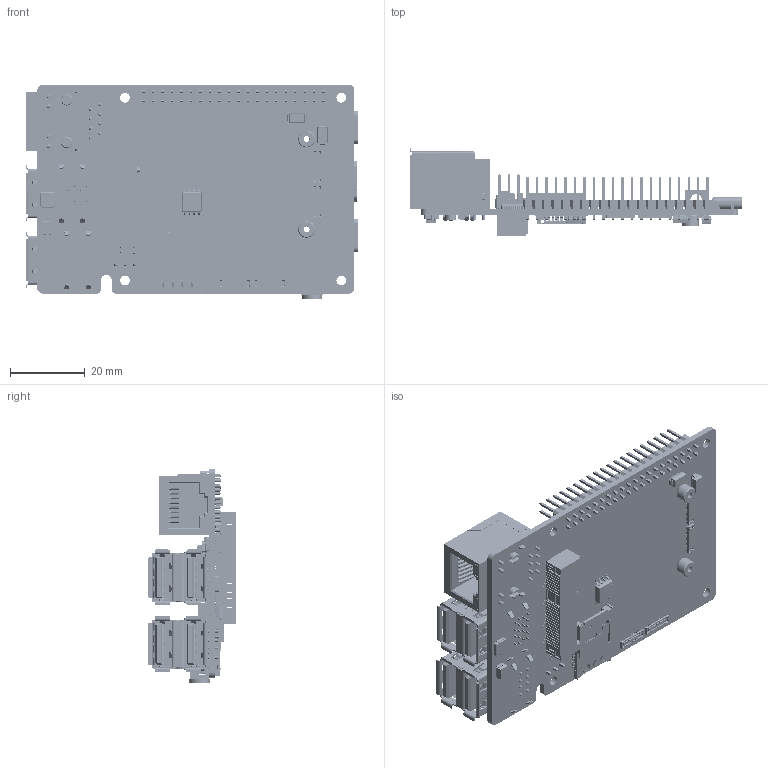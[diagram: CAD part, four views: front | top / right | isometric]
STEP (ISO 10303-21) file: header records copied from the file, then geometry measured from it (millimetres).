
FILE_DESCRIPTION (( 'STEP AP214' ), '1' );
FILE_NAME ('LubanCat 3-PCB 3D恅璃.STEP', '2025-04-15T01:10:36', ( '' ), ( '' ), 'SwSTEP 2.0', 'SolidWorks 2023', '' );
FILE_SCHEMA (( 'AUTOMOTIVE_DESIGN' ));
Length unit declared in the file: millimetre
Products named in the file (33): W25Q64JVSSIQ; eMMC-32G; IRM-v838M3 红外贴片; 0.4mm BTB母座2x15P 双槽 立贴式; 2.54排针3PIN; 0402 3.3uH; HR911130A; USB3.0+2.0卷边座子 零件; MINI PCIE插座 引脚数：52P; M2x3 台阶外径4.5整体4.5焊接外径3; 长鑫DRAM; MICRO SIM+TF卡座二合一; User Library-USB-TYPE-C20; FE2.1-CQFP48A; 0805 47uF; 0402 0.22uH; RK806S-5; TLJB227M006R0500; Type-C母座 24P USB-3.1; TS-1088-AR02016; USB2.0双层卷边 零件; SMAJ3.3CA; ZH 2P 插件1.5MM; RK3576; LubanCat 3-PCB 3D文件; 2.54mm 2x20P 直插 方针; 耳机座子; SMAJ5.0CA; FPC连接器24P 0.5mm立贴; MINI_HDMI; FPC连接器 针脚数30 间距0.5mm 高度2.0mm 下接 卧贴 翻盖式; 创都1.25T-2A; Lubancat3板图
Assembly tree (39 placements, depth 2):
  LubanCat 3-PCB 3D文件
    Lubancat3板图
    长鑫DRAM
    eMMC-32G
    FE2.1-CQFP48A
    RK806S-5
    USB2.0双层卷边 零件
    USB3.0+2.0卷边座子 零件
    HR911130A
    2.54mm 2x20P 直插 方针
    User Library-USB-TYPE-C20
    MINI_HDMI
    Type-C母座 24P USB-3.1
    耳机座子
    FPC连接器24P 0.5mm立贴
    ZH 2P 插件1.5MM
    创都1.25T-2A
    IRM-v838M3 红外贴片
    FPC连接器 针脚数30 间距0.5mm 高度2.0mm 下接 卧贴 翻盖式
    RK3576
    TS-1088-AR02016  x3
    0402 0.22uH
    2.54排针3PIN
    0.4mm BTB母座2x15P 双槽 立贴式  x5
    0805 47uF
    MINI PCIE插座 引脚数：52P
    MICRO SIM+TF卡座二合一
    M2x3 台阶外径4.5整体4.5焊接外径3  x2
    W25Q64JVSSIQ
    SMAJ5.0CA
    SMAJ3.3CA
    TLJB227M006R0500
    0402 3.3uH
Bounding box: 88.99 x 23.69 x 57.53 mm (x, y, z)
Volume: 18002.5 mm3; surface area: 30177.3 mm2
Topology: 339 solids, 415 shells, 22466 faces, 62882 edges, 40069 vertices
Faces by surface type: plane 15175, cylinder 4235, bspline 2959, cone 73, sphere 19, torus 5
Entity records: 652937 total; most frequent: CARTESIAN_POINT 204487, ORIENTED_EDGE 98339, DIRECTION 81041, EDGE_CURVE 49698, LINE 35193, VECTOR 35193, VERTEX_POINT 32579, AXIS2_PLACEMENT_3D 22924
